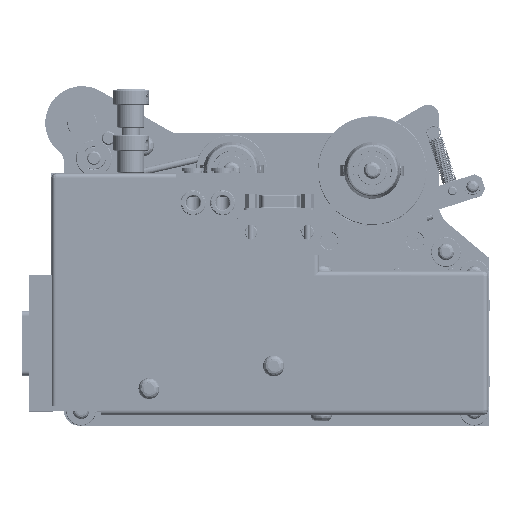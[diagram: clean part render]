
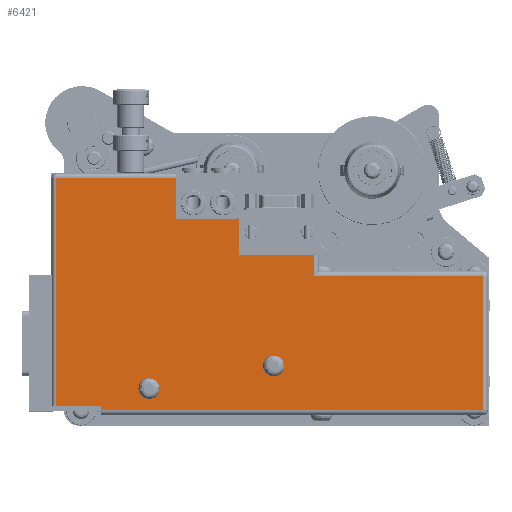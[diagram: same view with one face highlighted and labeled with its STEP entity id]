
A CAD part, top view. The second image highlights one B-rep face of the part: STEP entity #6421.
In plain terms, the highlighted planar face has unit normal (0, 0, 1) as drawn and (0, 0, -1) by its records, which use the part's own axes.
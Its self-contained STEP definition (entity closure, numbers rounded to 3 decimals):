
#6421 = ADVANCED_FACE ( 'NONE', ( #64707, #64725, #64699 ), #67118, .F. ) ;
#26341 = AXIS2_PLACEMENT_3D ( 'NONE', #67112, #67106, #67121 ) ;
#40068 = EDGE_LOOP ( 'NONE', ( #103083, #103084 ) ) ;
#40085 = EDGE_LOOP ( 'NONE', ( #103079, #103081 ) ) ;
#40100 = EDGE_LOOP ( 'NONE', ( #103056, #103057, #103059, #103061, #103062, #103064, #103067, #103069, #103071, #103073, #103075, #103077 ) ) ;
#50108 = VERTEX_POINT ( 'NONE', #123983 ) ;
#50114 = VERTEX_POINT ( 'NONE', #123985 ) ;
#50123 = VERTEX_POINT ( 'NONE', #123987 ) ;
#50135 = VERTEX_POINT ( 'NONE', #123993 ) ;
#50305 = VERTEX_POINT ( 'NONE', #124029 ) ;
#50430 = VERTEX_POINT ( 'NONE', #124052 ) ;
#50442 = VERTEX_POINT ( 'NONE', #124059 ) ;
#50463 = VERTEX_POINT ( 'NONE', #124060 ) ;
#50473 = VERTEX_POINT ( 'NONE', #124061 ) ;
#50491 = VERTEX_POINT ( 'NONE', #124065 ) ;
#50506 = VERTEX_POINT ( 'NONE', #124069 ) ;
#51461 = VERTEX_POINT ( 'NONE', #124075 ) ;
#51468 = VERTEX_POINT ( 'NONE', #124076 ) ;
#51481 = VERTEX_POINT ( 'NONE', #124082 ) ;
#51485 = VERTEX_POINT ( 'NONE', #124079 ) ;
#51492 = VERTEX_POINT ( 'NONE', #124081 ) ;
#64699 = FACE_BOUND ( 'NONE', #40068, .T. ) ;
#64707 = FACE_OUTER_BOUND ( 'NONE', #40100, .T. ) ;
#64725 = FACE_BOUND ( 'NONE', #40085, .T. ) ;
#67106 = DIRECTION ( 'NONE',  ( 0., 0., 1. ) ) ;
#67112 = CARTESIAN_POINT ( 'NONE',  ( -53.3, -96.25, 0. ) ) ;
#67118 = PLANE ( 'NONE',  #26341 ) ;
#67121 = DIRECTION ( 'NONE',  ( 1., 0., 0. ) ) ;
#70175 = EDGE_CURVE ( 'NONE', #50114, #50123, #140866, .T. ) ;
#70186 = EDGE_CURVE ( 'NONE', #50108, #50135, #140875, .T. ) ;
#70459 = EDGE_CURVE ( 'NONE', #50430, #50305, #141008, .T. ) ;
#70515 = EDGE_CURVE ( 'NONE', #50305, #50442, #141036, .T. ) ;
#70561 = EDGE_CURVE ( 'NONE', #50463, #50506, #141059, .T. ) ;
#70598 = EDGE_CURVE ( 'NONE', #51468, #50491, #141077, .T. ) ;
#70601 = EDGE_CURVE ( 'NONE', #51468, #51461, #141078, .T. ) ;
#70605 = EDGE_CURVE ( 'NONE', #51461, #51481, #141070, .T. ) ;
#70608 = EDGE_CURVE ( 'NONE', #51481, #51485, #141082, .T. ) ;
#70611 = EDGE_CURVE ( 'NONE', #51485, #50506, #141084, .T. ) ;
#70614 = EDGE_CURVE ( 'NONE', #50473, #50463, #141086, .T. ) ;
#70617 = EDGE_CURVE ( 'NONE', #50473, #51492, #141088, .T. ) ;
#70621 = EDGE_CURVE ( 'NONE', #51492, #50442, #141090, .T. ) ;
#70625 = EDGE_CURVE ( 'NONE', #50491, #50430, #141092, .T. ) ;
#70628 = EDGE_CURVE ( 'NONE', #50123, #50114, #141094, .T. ) ;
#70631 = EDGE_CURVE ( 'NONE', #50135, #50108, #141096, .T. ) ;
#92096 = AXIS2_PLACEMENT_3D ( 'NONE', #143804, #143805, #143806 ) ;
#92100 = AXIS2_PLACEMENT_3D ( 'NONE', #143813, #143814, #143815 ) ;
#92155 = AXIS2_PLACEMENT_3D ( 'NONE', #144131, #144132, #144133 ) ;
#92156 = AXIS2_PLACEMENT_3D ( 'NONE', #144135, #144136, #144137 ) ;
#103056 = ORIENTED_EDGE ( 'NONE', *, *, #70598, .F. ) ;
#103057 = ORIENTED_EDGE ( 'NONE', *, *, #70601, .T. ) ;
#103059 = ORIENTED_EDGE ( 'NONE', *, *, #70605, .T. ) ;
#103061 = ORIENTED_EDGE ( 'NONE', *, *, #70608, .T. ) ;
#103062 = ORIENTED_EDGE ( 'NONE', *, *, #70611, .T. ) ;
#103064 = ORIENTED_EDGE ( 'NONE', *, *, #70561, .F. ) ;
#103067 = ORIENTED_EDGE ( 'NONE', *, *, #70614, .F. ) ;
#103069 = ORIENTED_EDGE ( 'NONE', *, *, #70617, .T. ) ;
#103071 = ORIENTED_EDGE ( 'NONE', *, *, #70621, .T. ) ;
#103073 = ORIENTED_EDGE ( 'NONE', *, *, #70515, .F. ) ;
#103075 = ORIENTED_EDGE ( 'NONE', *, *, #70459, .F. ) ;
#103077 = ORIENTED_EDGE ( 'NONE', *, *, #70625, .F. ) ;
#103079 = ORIENTED_EDGE ( 'NONE', *, *, #70628, .T. ) ;
#103081 = ORIENTED_EDGE ( 'NONE', *, *, #70175, .T. ) ;
#103083 = ORIENTED_EDGE ( 'NONE', *, *, #70631, .T. ) ;
#103084 = ORIENTED_EDGE ( 'NONE', *, *, #70186, .T. ) ;
#123983 = CARTESIAN_POINT ( 'NONE',  ( 28.95, -1.75, 0. ) ) ;
#123985 = CARTESIAN_POINT ( 'NONE',  ( 38.95, 53.25, 0. ) ) ;
#123987 = CARTESIAN_POINT ( 'NONE',  ( 44.45, 53.25, 0. ) ) ;
#123993 = CARTESIAN_POINT ( 'NONE',  ( 34.45, -1.75, 0. ) ) ;
#124029 = CARTESIAN_POINT ( 'NONE',  ( 51.3, -94.25, 0. ) ) ;
#124052 = CARTESIAN_POINT ( 'NONE',  ( -8.1, -94.25, 0. ) ) ;
#124059 = CARTESIAN_POINT ( 'NONE',  ( 51.3, 74.25, 0. ) ) ;
#124060 = CARTESIAN_POINT ( 'NONE',  ( -51.3, 94.25, 0. ) ) ;
#124061 = CARTESIAN_POINT ( 'NONE',  ( 49.3, 94.25, 0. ) ) ;
#124065 = CARTESIAN_POINT ( 'NONE',  ( -8.1, -19.75, 0. ) ) ;
#124069 = CARTESIAN_POINT ( 'NONE',  ( -51.3, 41.45, 0. ) ) ;
#124075 = CARTESIAN_POINT ( 'NONE',  ( -17.1, 13.45, 0. ) ) ;
#124076 = CARTESIAN_POINT ( 'NONE',  ( -17.1, -19.75, 0. ) ) ;
#124079 = CARTESIAN_POINT ( 'NONE',  ( -33.1, 41.45, 0. ) ) ;
#124081 = CARTESIAN_POINT ( 'NONE',  ( 49.3, 74.25, 0. ) ) ;
#124082 = CARTESIAN_POINT ( 'NONE',  ( -33.1, 13.45, 0. ) ) ;
#140866 = CIRCLE ( 'NONE', #92096, 2.75 ) ;
#140875 = CIRCLE ( 'NONE', #92100, 2.75 ) ;
#141008 = LINE ( 'NONE', #143994, #141010 ) ;
#141010 = VECTOR ( 'NONE', #143995, 1000. ) ;
#141036 = LINE ( 'NONE', #144053, #141039 ) ;
#141039 = VECTOR ( 'NONE', #144054, 1000. ) ;
#141059 = LINE ( 'NONE', #144086, #141062 ) ;
#141062 = VECTOR ( 'NONE', #144087, 1000. ) ;
#141070 = LINE ( 'NONE', #144110, #141083 ) ;
#141077 = LINE ( 'NONE', #144105, #141079 ) ;
#141078 = LINE ( 'NONE', #144114, #141081 ) ;
#141079 = VECTOR ( 'NONE', #144106, 1000. ) ;
#141081 = VECTOR ( 'NONE', #144115, 1000. ) ;
#141082 = LINE ( 'NONE', #144117, #141085 ) ;
#141083 = VECTOR ( 'NONE', #144116, 1000. ) ;
#141084 = LINE ( 'NONE', #144119, #141087 ) ;
#141085 = VECTOR ( 'NONE', #144118, 1000. ) ;
#141086 = LINE ( 'NONE', #144121, #141089 ) ;
#141087 = VECTOR ( 'NONE', #144120, 1000. ) ;
#141088 = LINE ( 'NONE', #144123, #141091 ) ;
#141089 = VECTOR ( 'NONE', #144122, 1000. ) ;
#141090 = LINE ( 'NONE', #144125, #141093 ) ;
#141091 = VECTOR ( 'NONE', #144124, 1000. ) ;
#141092 = LINE ( 'NONE', #144127, #141095 ) ;
#141093 = VECTOR ( 'NONE', #144126, 1000. ) ;
#141094 = CIRCLE ( 'NONE', #92155, 2.75 ) ;
#141095 = VECTOR ( 'NONE', #144128, 1000. ) ;
#141096 = CIRCLE ( 'NONE', #92156, 2.75 ) ;
#143804 = CARTESIAN_POINT ( 'NONE',  ( 41.7, 53.25, 0. ) ) ;
#143805 = DIRECTION ( 'NONE',  ( 0., 0., 1. ) ) ;
#143806 = DIRECTION ( 'NONE',  ( 1., 0., 0. ) ) ;
#143813 = CARTESIAN_POINT ( 'NONE',  ( 31.7, -1.75, 0. ) ) ;
#143814 = DIRECTION ( 'NONE',  ( 0., 0., 1. ) ) ;
#143815 = DIRECTION ( 'NONE',  ( 1., 0., 0. ) ) ;
#143994 = CARTESIAN_POINT ( 'NONE',  ( -53.3, -94.25, 0. ) ) ;
#143995 = DIRECTION ( 'NONE',  ( 1., 0., 0. ) ) ;
#144053 = CARTESIAN_POINT ( 'NONE',  ( 51.3, -96.25, 0. ) ) ;
#144054 = DIRECTION ( 'NONE',  ( 0., 1., 0. ) ) ;
#144086 = CARTESIAN_POINT ( 'NONE',  ( -51.3, -96.25, 0. ) ) ;
#144087 = DIRECTION ( 'NONE',  ( 0., -1., 0. ) ) ;
#144105 = CARTESIAN_POINT ( 'NONE',  ( -53.3, -19.75, 0. ) ) ;
#144106 = DIRECTION ( 'NONE',  ( 1., 0., 0. ) ) ;
#144110 = CARTESIAN_POINT ( 'NONE',  ( -33.1, 13.45, 0. ) ) ;
#144114 = CARTESIAN_POINT ( 'NONE',  ( -17.1, 13.45, 0. ) ) ;
#144115 = DIRECTION ( 'NONE',  ( 0., 1., 0. ) ) ;
#144116 = DIRECTION ( 'NONE',  ( -1., 0., 0. ) ) ;
#144117 = CARTESIAN_POINT ( 'NONE',  ( -33.1, 41.45, 0. ) ) ;
#144118 = DIRECTION ( 'NONE',  ( 0., 1., 0. ) ) ;
#144119 = CARTESIAN_POINT ( 'NONE',  ( -53.3, 41.45, 0. ) ) ;
#144120 = DIRECTION ( 'NONE',  ( -1., 0., 0. ) ) ;
#144121 = CARTESIAN_POINT ( 'NONE',  ( -53.3, 94.25, 0. ) ) ;
#144122 = DIRECTION ( 'NONE',  ( -1., 0., 0. ) ) ;
#144123 = CARTESIAN_POINT ( 'NONE',  ( 49.3, 109.953, 0. ) ) ;
#144124 = DIRECTION ( 'NONE',  ( 0., -1., 0. ) ) ;
#144125 = CARTESIAN_POINT ( 'NONE',  ( 49.3, 74.25, 0. ) ) ;
#144126 = DIRECTION ( 'NONE',  ( 1., 0., 0. ) ) ;
#144127 = CARTESIAN_POINT ( 'NONE',  ( -8.1, -96.25, 0. ) ) ;
#144128 = DIRECTION ( 'NONE',  ( 0., -1., 0. ) ) ;
#144131 = CARTESIAN_POINT ( 'NONE',  ( 41.7, 53.25, 0. ) ) ;
#144132 = DIRECTION ( 'NONE',  ( 0., 0., 1. ) ) ;
#144133 = DIRECTION ( 'NONE',  ( 1., 0., 0. ) ) ;
#144135 = CARTESIAN_POINT ( 'NONE',  ( 31.7, -1.75, 0. ) ) ;
#144136 = DIRECTION ( 'NONE',  ( 0., 0., 1. ) ) ;
#144137 = DIRECTION ( 'NONE',  ( 1., 0., 0. ) ) ;
